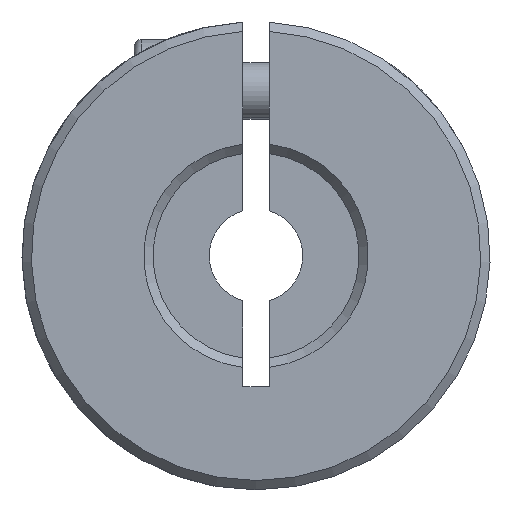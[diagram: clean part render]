
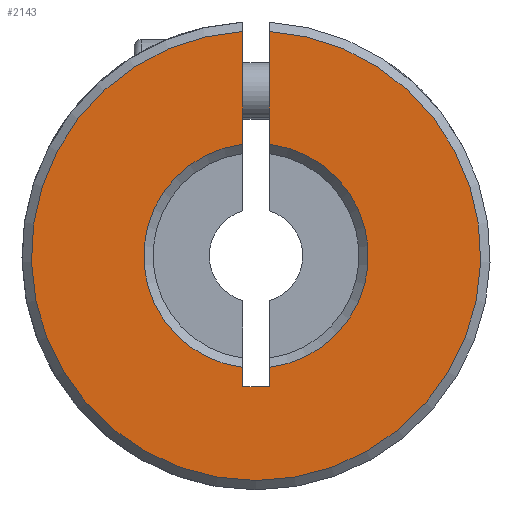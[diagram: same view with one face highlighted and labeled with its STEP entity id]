
A CAD part, front view. The second image highlights one B-rep face of the part: STEP entity #2143.
In plain terms, the highlighted planar face has unit normal (0, -1, 0).
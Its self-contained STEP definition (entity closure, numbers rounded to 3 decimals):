
#3 = VERTEX_POINT ( 'NONE', #2858 ) ;
#88 = CARTESIAN_POINT ( 'NONE',  ( 0.7, 0.25, -7. ) ) ;
#245 = EDGE_CURVE ( 'NONE', #3, #1013, #2115, .T. ) ;
#302 = EDGE_CURVE ( 'NONE', #4715, #1271, #1159, .T. ) ;
#386 = EDGE_LOOP ( 'NONE', ( #1036, #3868, #1897, #2233, #2827, #3825, #426, #1259 ) ) ;
#426 = ORIENTED_EDGE ( 'NONE', *, *, #918, .F. ) ;
#457 = VECTOR ( 'NONE', #1961, 1000. ) ;
#475 = DIRECTION ( 'NONE',  ( 0., 0., 1. ) ) ;
#548 = VECTOR ( 'NONE', #4854, 1000. ) ;
#653 = LINE ( 'NONE', #2406, #3577 ) ;
#711 = DIRECTION ( 'NONE',  ( 0., 0., 1. ) ) ;
#735 = FACE_OUTER_BOUND ( 'NONE', #386, .T. ) ;
#753 = EDGE_CURVE ( 'NONE', #1180, #1756, #1534, .T. ) ;
#768 = CARTESIAN_POINT ( 'NONE',  ( -0.7, 0.25, 11.98 ) ) ;
#784 = VERTEX_POINT ( 'NONE', #768 ) ;
#918 = EDGE_CURVE ( 'NONE', #784, #1013, #1292, .T. ) ;
#954 = CIRCLE ( 'NONE', #3737, 12. ) ;
#1013 = VERTEX_POINT ( 'NONE', #3608 ) ;
#1036 = ORIENTED_EDGE ( 'NONE', *, *, #2482, .F. ) ;
#1095 = EDGE_CURVE ( 'NONE', #784, #5382, #954, .T. ) ;
#1159 = LINE ( 'NONE', #1542, #457 ) ;
#1180 = VERTEX_POINT ( 'NONE', #3076 ) ;
#1259 = ORIENTED_EDGE ( 'NONE', *, *, #1095, .T. ) ;
#1271 = VERTEX_POINT ( 'NONE', #88 ) ;
#1292 = LINE ( 'NONE', #4646, #2154 ) ;
#1534 = CIRCLE ( 'NONE', #3201, 6. ) ;
#1542 = CARTESIAN_POINT ( 'NONE',  ( 0.7, 0.25, -7. ) ) ;
#1559 = DIRECTION ( 'NONE',  ( 0., 1., 0. ) ) ;
#1590 = CARTESIAN_POINT ( 'NONE',  ( 0., 0.25, 0. ) ) ;
#1756 = VERTEX_POINT ( 'NONE', #1956 ) ;
#1861 = DIRECTION ( 'NONE',  ( 0., 0., 1. ) ) ;
#1897 = ORIENTED_EDGE ( 'NONE', *, *, #3934, .F. ) ;
#1923 = CARTESIAN_POINT ( 'NONE',  ( 12.5, 0.25, -50. ) ) ;
#1956 = CARTESIAN_POINT ( 'NONE',  ( 0.7, 0.25, -5.959 ) ) ;
#1961 = DIRECTION ( 'NONE',  ( 1., 0., 0. ) ) ;
#2115 = CIRCLE ( 'NONE', #5186, 6. ) ;
#2143 = ADVANCED_FACE ( 'NONE', ( #735 ), #2388, .F. ) ;
#2154 = VECTOR ( 'NONE', #4281, 1000. ) ;
#2233 = ORIENTED_EDGE ( 'NONE', *, *, #302, .F. ) ;
#2388 = PLANE ( 'NONE',  #3400 ) ;
#2406 = CARTESIAN_POINT ( 'NONE',  ( 0.7, 0.25, -7. ) ) ;
#2482 = EDGE_CURVE ( 'NONE', #1180, #5382, #653, .T. ) ;
#2519 = CARTESIAN_POINT ( 'NONE',  ( -0.7, 0.25, -7. ) ) ;
#2743 = CARTESIAN_POINT ( 'NONE',  ( 0., 0.25, 0. ) ) ;
#2827 = ORIENTED_EDGE ( 'NONE', *, *, #4554, .F. ) ;
#2858 = CARTESIAN_POINT ( 'NONE',  ( -0.7, 0.25, -5.959 ) ) ;
#3076 = CARTESIAN_POINT ( 'NONE',  ( 0.7, 0.25, 5.959 ) ) ;
#3201 = AXIS2_PLACEMENT_3D ( 'NONE', #1590, #1559, #4934 ) ;
#3400 = AXIS2_PLACEMENT_3D ( 'NONE', #1923, #4928, #711 ) ;
#3577 = VECTOR ( 'NONE', #5369, 1000. ) ;
#3608 = CARTESIAN_POINT ( 'NONE',  ( -0.7, 0.25, 5.959 ) ) ;
#3737 = AXIS2_PLACEMENT_3D ( 'NONE', #4248, #5073, #475 ) ;
#3825 = ORIENTED_EDGE ( 'NONE', *, *, #245, .T. ) ;
#3868 = ORIENTED_EDGE ( 'NONE', *, *, #753, .T. ) ;
#3934 = EDGE_CURVE ( 'NONE', #1271, #1756, #3992, .T. ) ;
#3992 = LINE ( 'NONE', #5377, #548 ) ;
#4178 = DIRECTION ( 'NONE',  ( 0., 0., -1. ) ) ;
#4248 = CARTESIAN_POINT ( 'NONE',  ( 0., 0.25, 0. ) ) ;
#4281 = DIRECTION ( 'NONE',  ( 0., 0., -1. ) ) ;
#4375 = DIRECTION ( 'NONE',  ( 0., 1., 0. ) ) ;
#4554 = EDGE_CURVE ( 'NONE', #3, #4715, #5103, .T. ) ;
#4646 = CARTESIAN_POINT ( 'NONE',  ( -0.7, 0.25, -7. ) ) ;
#4715 = VERTEX_POINT ( 'NONE', #4887 ) ;
#4854 = DIRECTION ( 'NONE',  ( 0., 0., 1. ) ) ;
#4887 = CARTESIAN_POINT ( 'NONE',  ( -0.7, 0.25, -7. ) ) ;
#4928 = DIRECTION ( 'NONE',  ( 0., 1., 0. ) ) ;
#4934 = DIRECTION ( 'NONE',  ( 0., 0., 1. ) ) ;
#5073 = DIRECTION ( 'NONE',  ( 0., -1., 0. ) ) ;
#5103 = LINE ( 'NONE', #2519, #5195 ) ;
#5165 = CARTESIAN_POINT ( 'NONE',  ( 0.7, 0.25, 11.98 ) ) ;
#5186 = AXIS2_PLACEMENT_3D ( 'NONE', #2743, #4375, #1861 ) ;
#5195 = VECTOR ( 'NONE', #4178, 1000. ) ;
#5369 = DIRECTION ( 'NONE',  ( 0., 0., 1. ) ) ;
#5377 = CARTESIAN_POINT ( 'NONE',  ( 0.7, 0.25, -7. ) ) ;
#5382 = VERTEX_POINT ( 'NONE', #5165 ) ;
